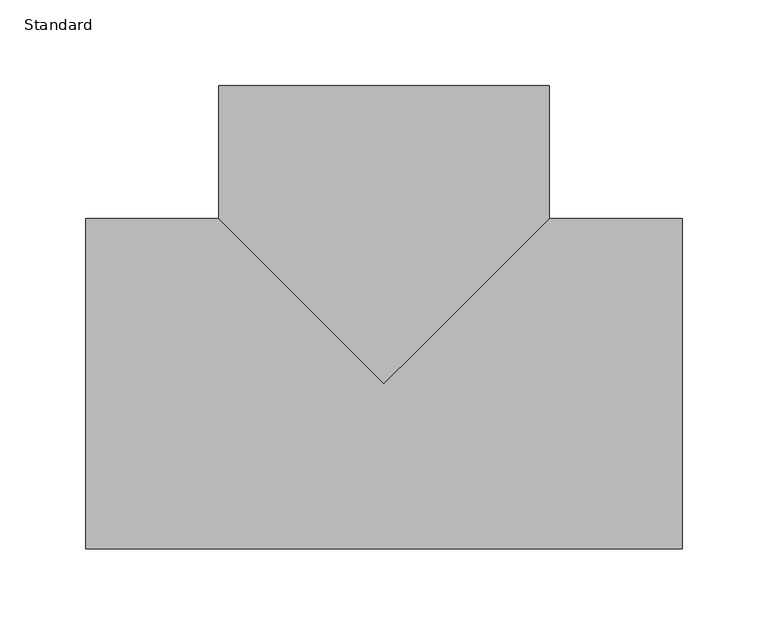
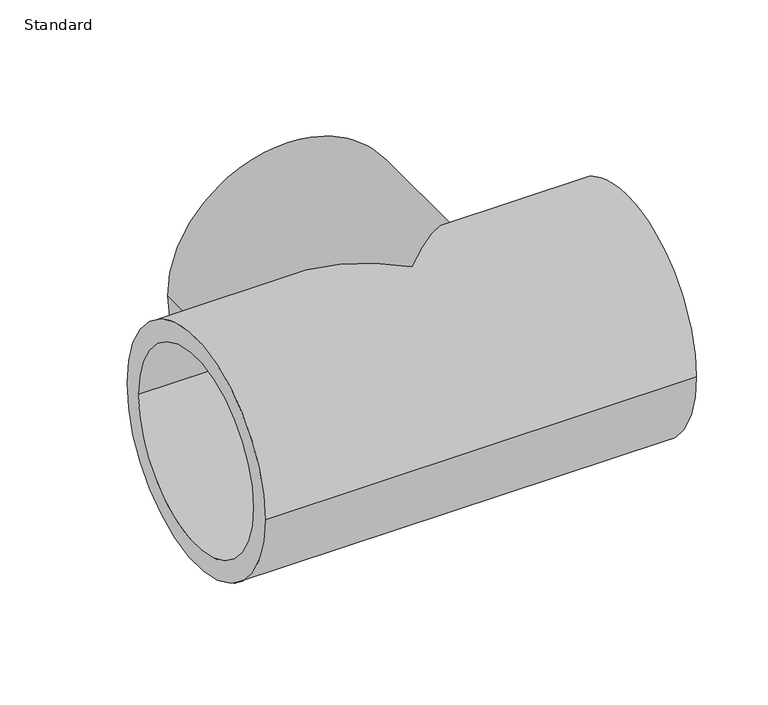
"""IFC4 building model written with IfcOpenShell, lengths in millimetres: pipe fitting geometry, Durapipe_PipeFitting_PVC_Tee90degEqual : Standard."""

from ifc_helpers import new_model, si_unit, frame, origin, place, context, project, spatial, polyline, circle_curve, ellipse_curve, source, transform, mapped, element, save
from ifc_brep_helpers import plane_surface, cylinder_surface, revolved_surface, advanced_brep


def standard_9147dc67(model_context):
    return source(origin(), model_context, "Body", "AdvancedBrep", [
        advanced_brep(
        [(-96.5, 174.0, 0.0), (96.5, 174.0, 0.0), (-80.0, 174.0, 0.0), (80.0, 174.0, 0.0), (-96.5, 96.5, 0.0), (0.0, 0.0, 96.5), (96.5, 96.5, 0.0), (0.0, 0.0, -96.5), (-174.0, -96.5, 0.0), (-174.0, 96.5, 0.0), (-174.0, -80.0, 0.0), (-174.0, 80.0, 0.0), (174.0, -96.5, 0.0), (174.0, 96.5, 0.0), (174.0, 80.0, 0.0), (174.0, -80.0, 0.0), (80.0, 88.0, 0.0), (-80.0, 88.0, 0.0), (0.0, 88.0, 0.0), (88.0, -80.0, 0.0), (88.0, 80.0, 0.0), (88.0, 0.0, 0.0), (-88.0, -80.0, 0.0), (-88.0, 80.0, 0.0), (-88.0, 0.0, 0.0)],
        [
            (0, 1, circle_curve(frame((0.0, 174.0, 0.0), z_axis=(0.0, 1.0, 0.0), x_axis=(1.0, 0.0, 0.0)), 96.5)),
            (1, 0, circle_curve(frame((0.0, 174.0, 0.0), z_axis=(0.0, 1.0, 0.0), x_axis=(1.0, 0.0, 0.0)), 96.5)),
            (2, 3, circle_curve(frame((0.0, 174.0, 0.0), z_axis=(0.0, -1.0, 0.0), x_axis=(-1.0, 0.0, 0.0)), 80.0)),
            (3, 2, circle_curve(frame((0.0, 174.0, 0.0), z_axis=(0.0, -1.0, 0.0), x_axis=(-1.0, 0.0, 0.0)), 80.0)),
            (0, 4),
            (4, 5, ellipse_curve(frame((0.0, 0.0, 0.0), z_axis=(0.7071067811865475, 0.7071067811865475, 0.0), x_axis=(-0.7071067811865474, 0.7071067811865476, 0.0)), 136.4716088, 96.5)),
            (5, 6, ellipse_curve(frame((0.0, 0.0, 0.0), z_axis=(-0.7071067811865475, 0.7071067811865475, 0.0), x_axis=(0.7071067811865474, 0.7071067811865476, 0.0)), 136.4716088, 96.5)),
            (6, 1),
            (6, 7, ellipse_curve(frame((0.0, 0.0, 0.0), z_axis=(-0.7071067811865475, 0.7071067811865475, 0.0), x_axis=(0.7071067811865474, 0.7071067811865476, 0.0)), 136.4716088, 96.5)),
            (7, 4, ellipse_curve(frame((0.0, 0.0, 0.0), z_axis=(0.7071067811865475, 0.7071067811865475, 0.0), x_axis=(-0.7071067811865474, 0.7071067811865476, 0.0)), 136.4716088, 96.5)),
            (8, 9, circle_curve(frame((-174.0, 0.0, 0.0), z_axis=(-1.0, 0.0, 0.0), x_axis=(0.0, 1.0, 0.0)), 96.5)),
            (9, 8, circle_curve(frame((-174.0, 0.0, 0.0), z_axis=(-1.0, 0.0, 0.0), x_axis=(0.0, 1.0, 0.0)), 96.5)),
            (10, 11, circle_curve(frame((-174.0, 0.0, 0.0), z_axis=(1.0, 0.0, 0.0), x_axis=(0.0, 1.0, 0.0)), 80.0)),
            (11, 10, circle_curve(frame((-174.0, 0.0, 0.0), z_axis=(1.0, 0.0, 0.0), x_axis=(0.0, 1.0, 0.0)), 80.0)),
            (12, 13, circle_curve(frame((174.0, 0.0, 0.0), z_axis=(1.0, 0.0, 0.0), x_axis=(0.0, 1.0, 0.0)), 96.5)),
            (13, 12, circle_curve(frame((174.0, 0.0, 0.0), z_axis=(1.0, 0.0, 0.0), x_axis=(0.0, 1.0, 0.0)), 96.5)),
            (14, 15, circle_curve(frame((174.0, 0.0, 0.0), z_axis=(-1.0, 0.0, 0.0), x_axis=(0.0, 1.0, 0.0)), 80.0)),
            (15, 14, circle_curve(frame((174.0, 0.0, 0.0), z_axis=(-1.0, 0.0, 0.0), x_axis=(0.0, 1.0, 0.0)), 80.0)),
            (8, 12),
            (13, 6),
            (4, 9),
            (16, 3),
            (2, 17),
            (17, 16, circle_curve(frame((0.0, 88.0, 0.0), z_axis=(0.0, -1.0, 0.0), x_axis=(-1.0, 0.0, 0.0)), 80.0)),
            (16, 17, circle_curve(frame((0.0, 88.0, 0.0), z_axis=(0.0, -1.0, 0.0), x_axis=(-1.0, 0.0, 0.0)), 80.0)),
            (17, 18),
            (18, 16),
            (19, 15),
            (14, 20),
            (20, 19, circle_curve(frame((88.0, 0.0, 0.0), z_axis=(-1.0, 0.0, 0.0), x_axis=(0.0, 1.0, 0.0)), 80.0)),
            (19, 20, circle_curve(frame((88.0, 0.0, 0.0), z_axis=(-1.0, 0.0, 0.0), x_axis=(0.0, 1.0, 0.0)), 80.0)),
            (20, 21),
            (21, 19),
            (10, 22),
            (22, 23, circle_curve(frame((-88.0, 0.0, 0.0), z_axis=(1.0, 0.0, 0.0), x_axis=(0.0, 1.0, 0.0)), 80.0)),
            (23, 11),
            (23, 22, circle_curve(frame((-88.0, 0.0, 0.0), z_axis=(1.0, 0.0, 0.0), x_axis=(0.0, 1.0, 0.0)), 80.0)),
            (22, 24),
            (24, 23),
        ],
        [
            plane_surface(frame((0.0, 174.0, 0.0), z_axis=(0.0, 1.0, 0.0), x_axis=(0.0, 0.0, 1.0))),
            cylinder_surface(frame((0.0, 174.0, 0.0), z_axis=(0.0, 1.0, 0.0), x_axis=(1.0, 0.0, 0.0)), 96.5),
            plane_surface(frame((-174.0, 0.0, 0.0), z_axis=(-1.0, 0.0, 0.0), x_axis=(0.0, 0.0, 1.0))),
            plane_surface(frame((174.0, 0.0, 0.0), z_axis=(1.0, 0.0, 0.0), x_axis=(0.0, 0.0, 1.0))),
            cylinder_surface(frame((-174.0, 0.0, 0.0), z_axis=(-1.0, 0.0, 0.0), x_axis=(0.0, 1.0, 0.0)), 96.5),
            revolved_surface(polyline([(-80.0, 88.0, 0.0), (-80.0, 174.0, 0.0)]), (0.0, 2149.0, 0.0), (0.0, -1.0, 0.0)),
            plane_surface(frame((0.0, 88.0, 0.0), z_axis=(0.0, 1.0, 0.0), x_axis=(-1.0, 0.0, 0.0))),
            revolved_surface(polyline([(88.0, 80.0, 0.0), (174.0, 80.0, 0.0)]), (2150.5, 0.0, 0.0), (-1.0, 0.0, 0.0)),
            plane_surface(frame((88.0, 0.0, 0.0), z_axis=(1.0, 0.0, 0.0), x_axis=(0.0, 1.0, 0.0))),
            revolved_surface(polyline([(-174.0, 80.0, 0.0), (-88.0, 80.0, 0.0)]), (2150.5, 0.0, 0.0), (-1.0, 0.0, 0.0)),
            plane_surface(frame((-88.0, 0.0, 0.0), z_axis=(-1.0, 0.0, 0.0), x_axis=(0.0, 1.0, 0.0))),
        ],
        [
            (0, [[1, 2], [3, 4]]),
            (1, [[-1, 5, 6, 7, 8]]),
            (1, [[-2, -8, 9, 10, -5]]),
            (2, [[11, 12], [13, 14]]),
            (3, [[15, 16], [17, 18]]),
            (4, [[-11, 19, -16, 20, -7, -6, 21]]),
            (4, [[-12, -21, -10, -9, -20, -15, -19]]),
            (5, [[22, -3, 23, 24]]),
            (5, [[-22, 25, -23, -4]]),
            (6, [[-24, 26, 27]]),
            (6, [[-25, -27, -26]]),
            (7, [[28, -17, 29, 30]]),
            (7, [[-28, 31, -29, -18]]),
            (8, [[-30, 32, 33]]),
            (8, [[-31, -33, -32]]),
            (9, [[34, 35, 36, -13]]),
            (9, [[-34, -14, -36, 37]]),
            (10, [[-35, 38, 39]]),
            (10, [[-37, -39, -38]]),
        ],
    ),
    ])


if __name__ == "__main__":
    model = new_model("IFC4")
    model_context = context("Model", 3, world=origin())
    ifc_project = project(units=[si_unit("LENGTHUNIT", "METRE", prefix="MILLI")], contexts=[model_context])
    site = spatial("IfcSite", under=ifc_project)
    building = spatial("IfcBuilding", under=site)
    placement = place(None, origin())
    standard_shape = standard_9147dc67(model_context)
    element("IfcPipeFitting", 1, ObjectType="Durapipe_PipeFitting_PVC_Tee90degEqual : Standard", at=placement, inside=building, context=model_context, shape_type="MappedRepresentation", body=[
        mapped(standard_shape, transform((0.0, 0.0, 0.0), x_axis=(1.0, 0.0, 0.0), y_axis=(0.0, 1.0, 0.0), z_axis=(0.0, 0.0, 1.0))),
    ])
    save(model, "model.ifc")
